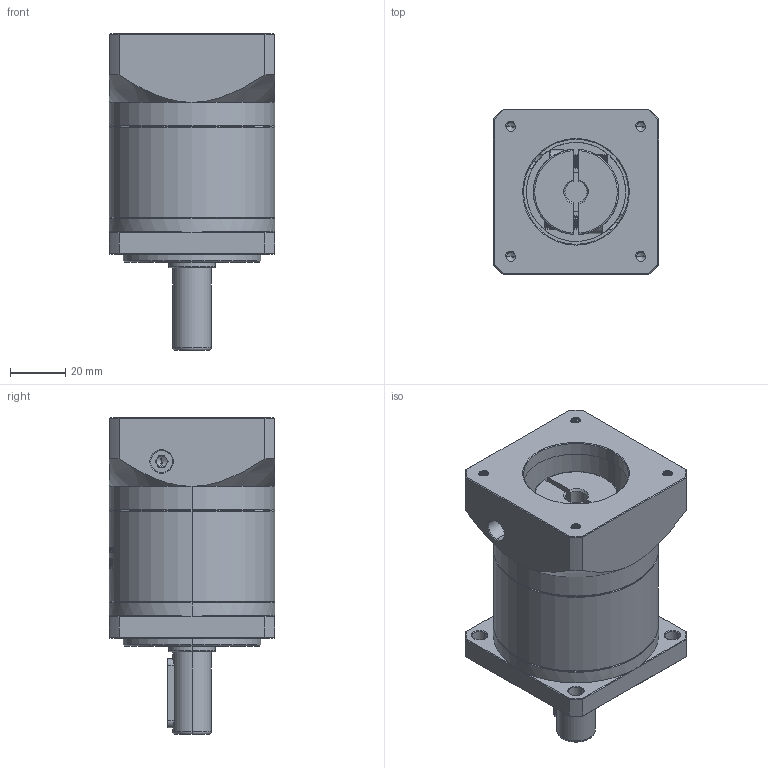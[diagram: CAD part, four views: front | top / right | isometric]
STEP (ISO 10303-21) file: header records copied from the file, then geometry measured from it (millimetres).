
FILE_DESCRIPTION (( 'STEP AP214' ), '1' );
FILE_NAME ('ZF60-D14-L1-8-38.1-47.14X47.14-M4.STEP', '2022-04-17T11:27:52', ( '' ), ( 'Microsoft' ), 'SwSTEP 2.0', 'SolidWorks 2016', '' );
FILE_SCHEMA (( 'AUTOMOTIVE_DESIGN' ));
Length unit declared in the file: millimetre
Products named in the file (1): ZF60-D14-L1-8-38.1-47.14X47.14-M4
Bounding box: 60 x 60 x 115 mm (x, y, z)
Volume: 226343.2 mm3; surface area: 43709.2 mm2
Topology: 6 solids, 6 shells, 1617 faces, 4371 edges, 2830 vertices
Faces by surface type: plane 744, cylinder 327, bspline 299, cone 227, torus 20
Entity records: 88828 total; most frequent: CARTESIAN_POINT 34062, ORIENTED_EDGE 8714, DIRECTION 6398, EDGE_CURVE 4357, VERTEX_POINT 2830, VECTOR 2214, LINE 2214, AXIS2_PLACEMENT_3D 2092
